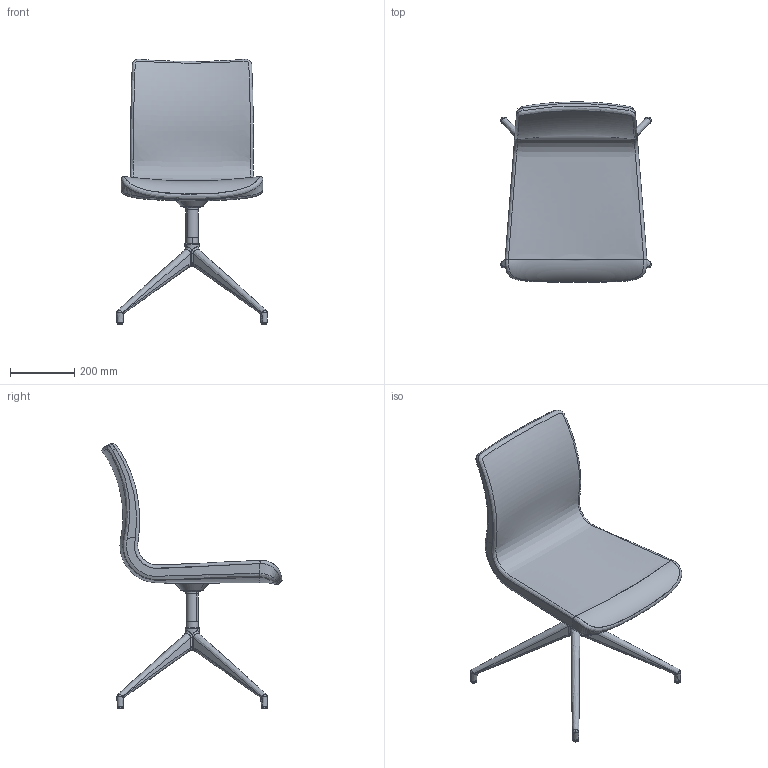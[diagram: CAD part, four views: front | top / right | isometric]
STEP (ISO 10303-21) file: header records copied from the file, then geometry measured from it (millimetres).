
FILE_DESCRIPTION(/* description */ (''),/* implementation_level */ '2;1');
FILE_NAME(/* name */ 'KINOSH~3',/* time_stamp */ '2019-07-19T10:26:54+09:00',/* author */ (''),/* organization */ (''),/* preprocessor_version */ 'ST-DEVELOPER v15',/* originating_system */ '',/* authorisation */ '');
FILE_SCHEMA (('AUTOMOTIVE_DESIGN'));
Length unit declared in the file: millimetre
Products named in the file (2): Document; ﾌﾞﾛｯｸ 22
Assembly tree (1 placements, depth 2):
  Document
    ﾌﾞﾛｯｸ 22
Bounding box: 467.44 x 558.78 x 823.61 mm (x, y, z)
Volume: 656525 mm3; surface area: 996039.4 mm2
Topology: 6 solids, 9 shells, 1482 faces, 4044 edges, 2511 vertices
Faces by surface type: bspline 955, plane 527
Entity records: 105215 total; most frequent: CARTESIAN_POINT 81674, ORIENTED_EDGE 7835, EDGE_CURVE 4044, B_SPLINE_CURVE_WITH_KNOTS 2974, VERTEX_POINT 2515, EDGE_LOOP 1493, ADVANCED_FACE 1482, FACE_OUTER_BOUND 1482
